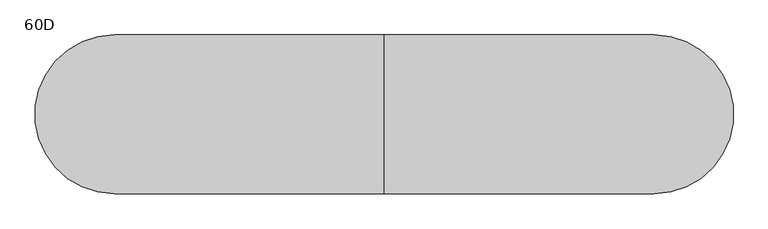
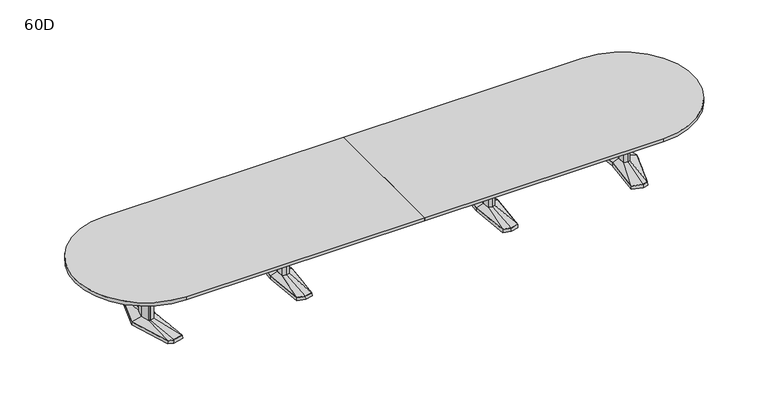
"""IFC4 building model written with IfcOpenShell, lengths in millimetres: furniture geometry, Coalesse_AM_Table_Conference_ETable2_Racetrack_22ft_AluminiumBase : 60D."""

from ifc_helpers import new_model, si_unit, point, frame, frame_2d, origin, place, context, project, spatial, polyline, circle_curve, trimmed, segment, composite_curve, outline, extrude, faceted_brep, source, transform, mapped, element, save
from ifc_brep_helpers import plane_surface, spline_surface, advanced_brep


def furniture_60d_ddcb2d8b(model_context):
    return source(origin(), model_context, "Body", "SolidModel", [
        faceted_brep([(1036.3666209, -433.8053819, 38.1), (1117.6, -455.556576, 38.1), (1198.8333791, -433.8053819, 38.1), (1236.6564774, 0.0, 38.1), (1198.8333791, 433.8053819, 38.1), (1117.6, 455.556576, 38.1), (1036.3666209, 433.8053819, 38.1), (998.5435226, 0.0, 38.1), (1034.8817205, -435.0512063, 3.175), (996.95, 0.0, 3.175), (1034.8817205, 435.0512063, 3.175), (1117.6, 457.2, 3.175), (1200.3182795, 435.0512063, 3.175), (1238.25, 0.0, 3.175), (1200.3182795, -435.0512063, 3.175), (1117.6, -457.2, 3.175), (1117.6, 429.2617927, 3.175), (1039.6323194, 408.3850278, 3.175), (1042.8980179, 382.9646737, 3.175), (1117.6, 402.9670094, 3.175), (1192.3019821, 382.9646737, 3.175), (1195.5676806, 408.3850278, 3.175), (1117.6, -429.2617927, 3.175), (1195.5676806, -408.3850278, 3.175), (1192.3019821, -382.9646737, 3.175), (1117.6, -402.9670094, 3.175), (1042.8980179, -382.9646737, 3.175), (1039.6323194, -408.3850278, 3.175), (1045.7425738, 114.6326257, 3.175), (1035.0573924, 0.0, 3.175), (1045.7425738, -114.6326257, 3.175), (1117.6, -133.8761372, 3.175), (1189.4574262, -114.6326257, 3.175), (1200.1426076, 0.0, 3.175), (1189.4574262, 114.6326257, 3.175), (1117.6, 133.8761372, 3.175), (1117.6, 429.2617927, 0.0), (1195.5676806, 408.3850278, 0.0), (1192.3019821, 382.9646737, 0.0), (1117.6, 402.9670094, 0.0), (1042.8980179, 382.9646737, 0.0), (1039.6323194, 408.3850278, 0.0), (1117.6, -429.2617927, 0.0), (1039.6323194, -408.3850278, 0.0), (1042.8980179, -382.9646737, 0.0), (1117.6, -402.9670094, 0.0), (1192.3019821, -382.9646737, 0.0), (1195.5676806, -408.3850278, 0.0), (1045.7425738, 114.6326257, 0.0), (1117.6, 133.8761372, 0.0), (1189.4574262, 114.6326257, 0.0), (1200.1426076, 0.0, 0.0), (1189.4574262, -114.6326257, 0.0), (1117.6, -133.8761372, 0.0), (1045.7425738, -114.6326257, 0.0), (1035.0573924, 0.0, 0.0)], [[[0, 1, 2, 3, 4, 5, 6, 7]], [[8, 9, 10, 11, 12, 13, 14, 15], [16, 17, 18, 19, 20, 21], [22, 23, 24, 25, 26, 27], [28, 29, 30, 31, 32, 33, 34, 35]], [[1, 0, 8, 15]], [[2, 1, 15, 14]], [[3, 2, 14, 13]], [[4, 3, 13, 12]], [[5, 4, 12, 11]], [[6, 5, 11, 10]], [[7, 6, 10, 9]], [[0, 7, 9, 8]], [[36, 37, 38, 39, 40, 41]], [[42, 43, 44, 45, 46, 47]], [[48, 49, 50, 51, 52, 53, 54, 55]], [[36, 41, 17, 16]], [[41, 40, 18, 17]], [[40, 39, 19, 18]], [[39, 38, 20, 19]], [[38, 37, 21, 20]], [[37, 36, 16, 21]], [[42, 47, 23, 22]], [[47, 46, 24, 23]], [[46, 45, 25, 24]], [[45, 44, 26, 25]], [[44, 43, 27, 26]], [[43, 42, 22, 27]], [[48, 55, 29, 28]], [[55, 54, 30, 29]], [[54, 53, 31, 30]], [[53, 52, 32, 31]], [[52, 51, 33, 32]], [[51, 50, 34, 33]], [[50, 49, 35, 34]], [[49, 48, 28, 35]]]),
        faceted_brep([(1081.2167166, 84.6900825, 698.5), (1073.3225513, 0.0, 698.5), (1081.2167166, -84.6900825, 698.5), (1117.6, -94.4335728, 698.5), (1153.9832834, -84.6900825, 698.5), (1161.8774487, 0.0, 698.5), (1153.9832834, 84.6900825, 698.5), (1117.6, 94.4335728, 698.5), (1081.2167166, 84.6900825, 63.5), (1117.6, 94.4335728, 63.5), (1153.9832834, 84.6900825, 63.5), (1161.8774487, 0.0, 63.5), (1153.9832834, -84.6900825, 63.5), (1117.6, -94.4335728, 63.5), (1081.2167166, -84.6900825, 63.5), (1073.3225513, 0.0, 63.5)], [[[0, 1, 2, 3, 4, 5, 6, 7]], [[8, 9, 10, 11, 12, 13, 14, 15]], [[1, 0, 8, 15]], [[2, 1, 15, 14]], [[3, 2, 14, 13]], [[4, 3, 13, 12]], [[5, 4, 12, 11]], [[6, 5, 11, 10]], [[7, 6, 10, 9]], [[0, 7, 9, 8]]]),
        advanced_brep(
        [(1081.2167166, 84.6900825, 63.5), (1073.3225513, 0.0, 63.5), (1081.2167166, -84.6900825, 63.5), (1117.6, -94.4335728, 63.5), (1153.9832834, -84.6900825, 63.5), (1161.8774487, 0.0, 63.5), (1153.9832834, 84.6900825, 63.5), (1117.6, 94.4335728, 63.5), (1036.3666209, 433.8053819, 38.1), (1117.6, 455.556576, 38.1), (1198.8333791, 433.8053819, 38.1), (1236.6564774, 0.0, 38.1), (1198.8333791, -433.8053819, 38.1), (1117.6, -455.556576, 38.1), (1036.3666209, -433.8053819, 38.1), (998.5435226, 0.0, 38.1)],
        [
            (0, 1),
            (1, 2),
            (2, 3),
            (3, 4),
            (4, 5),
            (5, 6),
            (6, 7),
            (7, 0),
            (8, 9),
            (9, 10),
            (10, 11),
            (11, 12),
            (12, 13),
            (13, 14),
            (14, 15),
            (15, 8),
            (15, 1),
            (0, 8),
            (14, 2),
            (13, 3),
            (12, 4),
            (11, 5),
            (10, 6),
            (9, 7),
        ],
        [
            plane_surface(frame((1117.6, 0.0, 63.5), z_axis=(0.0, 0.0, 1.0000000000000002), x_axis=(-0.9659615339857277, -0.25868574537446, 0.0))),
            plane_surface(frame((1117.6, 0.0, 38.1), z_axis=(0.0, 0.0, -1.0000000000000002), x_axis=(-0.9659615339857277, -0.25868574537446, 0.0))),
            spline_surface(1, 1, [[(1036.3666209, 433.8053819, 38.1), (1081.2167166, 84.6900825, 63.5)], [(998.5435226, 0.0, 38.1), (1073.3225513, 0.0, 63.5)]], [2, 2], [2, 2], [0.0, 1.0], [0.0, 1.0]),
            spline_surface(1, 1, [[(998.5435226, 0.0, 38.1), (1073.3225513, 0.0, 63.5)], [(1036.3666209, -433.8053819, 38.1), (1081.2167166, -84.6900825, 63.5)]], [2, 2], [2, 2], [0.0, 1.0], [0.0, 1.0]),
            spline_surface(1, 1, [[(1036.3666209, -433.8053819, 38.1), (1081.2167166, -84.6900825, 63.5)], [(1117.6, -455.556576, 38.1), (1117.6, -94.4335728, 63.5)]], [2, 2], [2, 2], [0.0, 1.0], [0.0, 1.0]),
            spline_surface(1, 1, [[(1117.6, -455.556576, 38.1), (1117.6, -94.4335728, 63.5)], [(1198.8333791, -433.8053819, 38.1), (1153.9832834, -84.6900825, 63.5)]], [2, 2], [2, 2], [0.0, 1.0], [0.0, 1.0]),
            spline_surface(1, 1, [[(1198.8333791, -433.8053819, 38.1), (1153.9832834, -84.6900825, 63.5)], [(1236.6564774, 0.0, 38.1), (1161.8774487, 0.0, 63.5)]], [2, 2], [2, 2], [0.0, 1.0], [0.0, 1.0]),
            spline_surface(1, 1, [[(1236.6564774, 0.0, 38.1), (1161.8774487, 0.0, 63.5)], [(1198.8333791, 433.8053819, 38.1), (1153.9832834, 84.6900825, 63.5)]], [2, 2], [2, 2], [0.0, 1.0], [0.0, 1.0]),
            spline_surface(1, 1, [[(1198.8333791, 433.8053819, 38.1), (1153.9832834, 84.6900825, 63.5)], [(1117.6, 455.556576, 38.1), (1117.6, 94.4335728, 63.5)]], [2, 2], [2, 2], [0.0, 1.0], [0.0, 1.0]),
            spline_surface(1, 1, [[(1117.6, 455.556576, 38.1), (1117.6, 94.4335728, 63.5)], [(1036.3666209, 433.8053819, 38.1), (1081.2167166, 84.6900825, 63.5)]], [2, 2], [2, 2], [0.0, 1.0], [0.0, 1.0]),
        ],
        [
            (0, [[1, 2, 3, 4, 5, 6, 7, 8]]),
            (1, [[9, 10, 11, 12, 13, 14, 15, 16]]),
            (2, [[-16, 17, -1, 18]]),
            (3, [[-15, 19, -2, -17]]),
            (4, [[-14, 20, -3, -19]]),
            (5, [[-13, 21, -4, -20]]),
            (6, [[-12, 22, -5, -21]]),
            (7, [[-11, 23, -6, -22]]),
            (8, [[-10, 24, -7, -23]]),
            (9, [[-9, -18, -8, -24]]),
        ],
    ),
        faceted_brep([(-1198.8333791, -433.8053819, 38.1), (-1117.6, -455.556576, 38.1), (-1036.3666209, -433.8053819, 38.1), (-998.5435226, 0.0, 38.1), (-1036.3666209, 433.8053819, 38.1), (-1117.6, 455.556576, 38.1), (-1198.8333791, 433.8053819, 38.1), (-1236.6564774, 0.0, 38.1), (-1200.3182795, -435.0512063, 3.175), (-1238.25, 0.0, 3.175), (-1200.3182795, 435.0512063, 3.175), (-1117.6, 457.2, 3.175), (-1034.8817205, 435.0512063, 3.175), (-996.95, 0.0, 3.175), (-1034.8817205, -435.0512063, 3.175), (-1117.6, -457.2, 3.175), (-1117.6, 429.2617927, 3.175), (-1195.5676806, 408.3850278, 3.175), (-1192.3019821, 382.9646737, 3.175), (-1117.6, 402.9670094, 3.175), (-1042.8980179, 382.9646737, 3.175), (-1039.6323194, 408.3850278, 3.175), (-1117.6, -429.2617927, 3.175), (-1039.6323194, -408.3850278, 3.175), (-1042.8980179, -382.9646737, 3.175), (-1117.6, -402.9670094, 3.175), (-1192.3019821, -382.9646737, 3.175), (-1195.5676806, -408.3850278, 3.175), (-1189.4574262, 114.6326257, 3.175), (-1200.1426076, 0.0, 3.175), (-1189.4574262, -114.6326257, 3.175), (-1117.6, -133.8761372, 3.175), (-1045.7425738, -114.6326257, 3.175), (-1035.0573924, 0.0, 3.175), (-1045.7425738, 114.6326257, 3.175), (-1117.6, 133.8761372, 3.175), (-1117.6, 429.2617927, 0.0), (-1039.6323194, 408.3850278, 0.0), (-1042.8980179, 382.9646737, 0.0), (-1117.6, 402.9670094, 0.0), (-1192.3019821, 382.9646737, 0.0), (-1195.5676806, 408.3850278, 0.0), (-1117.6, -429.2617927, 0.0), (-1195.5676806, -408.3850278, 0.0), (-1192.3019821, -382.9646737, 0.0), (-1117.6, -402.9670094, 0.0), (-1042.8980179, -382.9646737, 0.0), (-1039.6323194, -408.3850278, 0.0), (-1189.4574262, 114.6326257, 0.0), (-1117.6, 133.8761372, 0.0), (-1045.7425738, 114.6326257, 0.0), (-1035.0573924, 0.0, 0.0), (-1045.7425738, -114.6326257, 0.0), (-1117.6, -133.8761372, 0.0), (-1189.4574262, -114.6326257, 0.0), (-1200.1426076, 0.0, 0.0)], [[[0, 1, 2, 3, 4, 5, 6, 7]], [[8, 9, 10, 11, 12, 13, 14, 15], [16, 17, 18, 19, 20, 21], [22, 23, 24, 25, 26, 27], [28, 29, 30, 31, 32, 33, 34, 35]], [[1, 0, 8, 15]], [[2, 1, 15, 14]], [[3, 2, 14, 13]], [[4, 3, 13, 12]], [[5, 4, 12, 11]], [[6, 5, 11, 10]], [[7, 6, 10, 9]], [[0, 7, 9, 8]], [[36, 37, 38, 39, 40, 41]], [[42, 43, 44, 45, 46, 47]], [[48, 49, 50, 51, 52, 53, 54, 55]], [[36, 41, 17, 16]], [[41, 40, 18, 17]], [[40, 39, 19, 18]], [[39, 38, 20, 19]], [[38, 37, 21, 20]], [[37, 36, 16, 21]], [[42, 47, 23, 22]], [[47, 46, 24, 23]], [[46, 45, 25, 24]], [[45, 44, 26, 25]], [[44, 43, 27, 26]], [[43, 42, 22, 27]], [[48, 55, 29, 28]], [[55, 54, 30, 29]], [[54, 53, 31, 30]], [[53, 52, 32, 31]], [[52, 51, 33, 32]], [[51, 50, 34, 33]], [[50, 49, 35, 34]], [[49, 48, 28, 35]]]),
        faceted_brep([(-1153.9832834, 84.6900825, 698.5), (-1161.8774487, 0.0, 698.5), (-1153.9832834, -84.6900825, 698.5), (-1117.6, -94.4335728, 698.5), (-1081.2167166, -84.6900825, 698.5), (-1073.3225513, 0.0, 698.5), (-1081.2167166, 84.6900825, 698.5), (-1117.6, 94.4335728, 698.5), (-1153.9832834, 84.6900825, 63.5), (-1117.6, 94.4335728, 63.5), (-1081.2167166, 84.6900825, 63.5), (-1073.3225513, 0.0, 63.5), (-1081.2167166, -84.6900825, 63.5), (-1117.6, -94.4335728, 63.5), (-1153.9832834, -84.6900825, 63.5), (-1161.8774487, 0.0, 63.5)], [[[0, 1, 2, 3, 4, 5, 6, 7]], [[8, 9, 10, 11, 12, 13, 14, 15]], [[1, 0, 8, 15]], [[2, 1, 15, 14]], [[3, 2, 14, 13]], [[4, 3, 13, 12]], [[5, 4, 12, 11]], [[6, 5, 11, 10]], [[7, 6, 10, 9]], [[0, 7, 9, 8]]]),
        advanced_brep(
        [(-1153.9832834, 84.6900825, 63.5), (-1161.8774487, 0.0, 63.5), (-1153.9832834, -84.6900825, 63.5), (-1117.6, -94.4335728, 63.5), (-1081.2167166, -84.6900825, 63.5), (-1073.3225513, 0.0, 63.5), (-1081.2167166, 84.6900825, 63.5), (-1117.6, 94.4335728, 63.5), (-1198.8333791, 433.8053819, 38.1), (-1117.6, 455.556576, 38.1), (-1036.3666209, 433.8053819, 38.1), (-998.5435226, 0.0, 38.1), (-1036.3666209, -433.8053819, 38.1), (-1117.6, -455.556576, 38.1), (-1198.8333791, -433.8053819, 38.1), (-1236.6564774, 0.0, 38.1)],
        [
            (0, 1),
            (1, 2),
            (2, 3),
            (3, 4),
            (4, 5),
            (5, 6),
            (6, 7),
            (7, 0),
            (8, 9),
            (9, 10),
            (10, 11),
            (11, 12),
            (12, 13),
            (13, 14),
            (14, 15),
            (15, 8),
            (15, 1),
            (0, 8),
            (14, 2),
            (13, 3),
            (12, 4),
            (11, 5),
            (10, 6),
            (9, 7),
        ],
        [
            plane_surface(frame((-1117.6, 0.0, 63.5), z_axis=(0.0, 0.0, 1.0000000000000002), x_axis=(-0.9659615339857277, -0.25868574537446, 0.0))),
            plane_surface(frame((-1117.6, 0.0, 38.1), z_axis=(0.0, 0.0, -1.0000000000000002), x_axis=(-0.9659615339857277, -0.25868574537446, 0.0))),
            spline_surface(1, 1, [[(-1198.8333791, 433.8053819, 38.1), (-1153.9832834, 84.6900825, 63.5)], [(-1236.6564774, 0.0, 38.1), (-1161.8774487, 0.0, 63.5)]], [2, 2], [2, 2], [0.0, 1.0], [0.0, 1.0]),
            spline_surface(1, 1, [[(-1236.6564774, 0.0, 38.1), (-1161.8774487, 0.0, 63.5)], [(-1198.8333791, -433.8053819, 38.1), (-1153.9832834, -84.6900825, 63.5)]], [2, 2], [2, 2], [0.0, 1.0], [0.0, 1.0]),
            spline_surface(1, 1, [[(-1198.8333791, -433.8053819, 38.1), (-1153.9832834, -84.6900825, 63.5)], [(-1117.6, -455.556576, 38.1), (-1117.6, -94.4335728, 63.5)]], [2, 2], [2, 2], [0.0, 1.0], [0.0, 1.0]),
            spline_surface(1, 1, [[(-1117.6, -455.556576, 38.1), (-1117.6, -94.4335728, 63.5)], [(-1036.3666209, -433.8053819, 38.1), (-1081.2167166, -84.6900825, 63.5)]], [2, 2], [2, 2], [0.0, 1.0], [0.0, 1.0]),
            spline_surface(1, 1, [[(-1036.3666209, -433.8053819, 38.1), (-1081.2167166, -84.6900825, 63.5)], [(-998.5435226, 0.0, 38.1), (-1073.3225513, 0.0, 63.5)]], [2, 2], [2, 2], [0.0, 1.0], [0.0, 1.0]),
            spline_surface(1, 1, [[(-998.5435226, 0.0, 38.1), (-1073.3225513, 0.0, 63.5)], [(-1036.3666209, 433.8053819, 38.1), (-1081.2167166, 84.6900825, 63.5)]], [2, 2], [2, 2], [0.0, 1.0], [0.0, 1.0]),
            spline_surface(1, 1, [[(-1036.3666209, 433.8053819, 38.1), (-1081.2167166, 84.6900825, 63.5)], [(-1117.6, 455.556576, 38.1), (-1117.6, 94.4335728, 63.5)]], [2, 2], [2, 2], [0.0, 1.0], [0.0, 1.0]),
            spline_surface(1, 1, [[(-1117.6, 455.556576, 38.1), (-1117.6, 94.4335728, 63.5)], [(-1198.8333791, 433.8053819, 38.1), (-1153.9832834, 84.6900825, 63.5)]], [2, 2], [2, 2], [0.0, 1.0], [0.0, 1.0]),
        ],
        [
            (0, [[1, 2, 3, 4, 5, 6, 7, 8]]),
            (1, [[9, 10, 11, 12, 13, 14, 15, 16]]),
            (2, [[-16, 17, -1, 18]]),
            (3, [[-15, 19, -2, -17]]),
            (4, [[-14, 20, -3, -19]]),
            (5, [[-13, 21, -4, -20]]),
            (6, [[-12, 22, -5, -21]]),
            (7, [[-11, 23, -6, -22]]),
            (8, [[-10, 24, -7, -23]]),
            (9, [[-9, -18, -8, -24]]),
        ],
    ),
        faceted_brep([(2548.0994335, 455.5848221, 38.1), (2438.5218777, 426.2263816, 38.1), (2479.6851217, 0.0, 38.1), (2438.5218777, -426.2263816, 38.1), (2548.0994335, -455.5848221, 38.1), (2604.2257896, -440.5478297, 38.1), (2741.5371769, 0.0, 38.1), (2604.2257896, 440.5478297, 38.1), (2548.0994254, 457.2283104, 3.175), (2605.4811972, 441.8549756, 3.175), (2743.2, 0.0, 3.175), (2605.4811972, -441.8549756, 3.175), (2548.0994254, -457.2283104, 3.175), (2436.8125, -427.4118891, 3.175), (2478.0902356, 0.0, 3.175), (2436.8125, 427.4118891, 3.175), (2551.688865, 428.3273875, 3.175), (2446.6405728, 402.1057253, 3.175), (2454.759268, 377.985069, 3.175), (2555.2782966, 401.0699529, 3.175), (2605.8379225, 387.524361, 3.175), (2605.0318561, 414.0360954, 3.175), (2551.688865, -428.3273875, 3.175), (2605.0318561, -414.0360954, 3.175), (2605.8379225, -387.524361, 3.175), (2555.2782966, -401.0699529, 3.175), (2454.759268, -377.985069, 3.175), (2446.6405728, -402.1057253, 3.175), (2678.2841121, 0.0, 3.175), (2646.0147111, 120.4193755, 3.175), (2597.3674722, 133.471665, 3.175), (2517.4868026, 119.4176561, 3.175), (2506.3555966, 0.0, 3.175), (2517.4868026, -119.4176561, 3.175), (2597.3674722, -133.471665, 3.175), (2646.0147111, -120.4193755, 3.175), (2551.688865, 428.3273875, 0.0), (2605.0318561, 414.0360954, 0.0), (2605.8379225, 387.524361, 0.0), (2555.2782966, 401.0699529, 0.0), (2454.759268, 377.985069, 0.0), (2446.6405728, 402.1057253, 0.0), (2551.688865, -428.3273875, 0.0), (2446.6405728, -402.1057253, 0.0), (2454.759268, -377.985069, 0.0), (2555.2782966, -401.0699529, 0.0), (2605.8379225, -387.524361, 0.0), (2605.0318561, -414.0360954, 0.0), (2678.2841121, 0.0, 0.0), (2646.0147111, -120.4193755, 0.0), (2597.3674722, -133.471665, 0.0), (2517.4868026, -119.4176561, 0.0), (2506.3555966, 0.0, 0.0), (2517.4868026, 119.4176561, 0.0), (2597.3674722, 133.471665, 0.0), (2646.0147111, 120.4193755, 0.0)], [[[0, 1, 2, 3, 4, 5, 6, 7]], [[8, 9, 10, 11, 12, 13, 14, 15], [16, 17, 18, 19, 20, 21], [22, 23, 24, 25, 26, 27], [28, 29, 30, 31, 32, 33, 34, 35]], [[7, 9, 8, 0]], [[6, 10, 9, 7]], [[5, 11, 10, 6]], [[4, 12, 11, 5]], [[3, 13, 12, 4]], [[2, 14, 13, 3]], [[1, 15, 14, 2]], [[0, 8, 15, 1]], [[36, 37, 38, 39, 40, 41]], [[42, 43, 44, 45, 46, 47]], [[48, 49, 50, 51, 52, 53, 54, 55]], [[36, 16, 21, 37]], [[37, 21, 20, 38]], [[38, 20, 19, 39]], [[39, 19, 18, 40]], [[40, 18, 17, 41]], [[41, 17, 16, 36]], [[42, 22, 27, 43]], [[43, 27, 26, 44]], [[44, 26, 25, 45]], [[45, 25, 24, 46]], [[46, 24, 23, 47]], [[47, 23, 22, 42]], [[48, 28, 35, 49]], [[49, 35, 34, 50]], [[50, 34, 33, 51]], [[51, 33, 32, 52]], [[52, 32, 31, 53]], [[53, 31, 30, 54]], [[54, 30, 29, 55]], [[55, 29, 28, 48]]]),
        faceted_brep([(2638.8398336, 0.0, 698.5), (2614.9046046, 89.3188359, 698.5), (2598.0512484, 93.8406728, 698.5), (2595.6514011, 94.4845635, 698.5), (2552.723896, 86.9320037, 698.5), (2544.6207556, 0.0, 698.5), (2552.723896, -86.9320037, 698.5), (2595.6514011, -94.4845635, 698.5), (2598.0512484, -93.8406728, 698.5), (2614.9046046, -89.3188359, 698.5), (2638.8398336, 0.0, 63.5), (2614.9046046, -89.3188359, 63.5), (2598.0512484, -93.8406728, 63.5), (2595.6514011, -94.4845635, 63.5), (2552.723896, -86.9320037, 63.5), (2544.6207556, 0.0, 63.5), (2552.723896, 86.9320037, 63.5), (2595.6514011, 94.4845635, 63.5), (2598.0512484, 93.8406728, 63.5), (2614.9046046, 89.3188359, 63.5)], [[[0, 1, 2, 3, 4, 5, 6, 7, 8, 9]], [[10, 11, 12, 13, 14, 15, 16, 17, 18, 19]], [[9, 11, 10, 0]], [[8, 12, 11, 9]], [[7, 13, 12, 8]], [[6, 14, 13, 7]], [[5, 15, 14, 6]], [[4, 16, 15, 5]], [[3, 17, 16, 4]], [[2, 18, 17, 3]], [[1, 19, 18, 2]], [[0, 10, 19, 1]]]),
        advanced_brep(
        [(2595.6514011, 94.4845635, 63.5), (2552.723896, 86.9320037, 63.5), (2544.6207556, 0.0, 63.5), (2552.723896, -86.9320037, 63.5), (2595.6514011, -94.4845635, 63.5), (2614.9046046, -89.3188359, 63.5), (2638.8398336, 0.0, 63.5), (2614.9046046, 89.3188359, 63.5), (2548.0994335, 455.5848221, 38.1), (2604.2257896, 440.5478297, 38.1), (2741.5371769, 0.0, 38.1), (2604.2257896, -440.5478297, 38.1), (2548.0994335, -455.5848221, 38.1), (2438.5218777, -426.2263816, 38.1), (2479.6851217, 0.0, 38.1), (2438.5218777, 426.2263816, 38.1)],
        [
            (0, 1),
            (1, 2),
            (2, 3),
            (3, 4),
            (4, 5),
            (5, 6),
            (6, 7),
            (7, 0),
            (8, 9),
            (9, 10),
            (10, 11),
            (11, 12),
            (12, 13),
            (13, 14),
            (14, 15),
            (15, 8),
            (8, 0),
            (7, 9),
            (6, 10),
            (5, 11),
            (4, 12),
            (3, 13),
            (2, 14),
            (1, 15),
        ],
        [
            plane_surface(frame((2588.7525491, 0.0, 63.5), z_axis=(0.0, 0.0, 1.0), x_axis=(-0.25884244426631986, -0.9659195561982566, 0.0))),
            plane_surface(frame((2550.3645625, 0.0, 38.1), z_axis=(0.0, 0.0, -1.0), x_axis=(-0.25884244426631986, -0.9659195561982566, 0.0))),
            spline_surface(1, 1, [[(2548.0994335, 455.5848221, 38.1), (2604.2257896, 440.5478297, 38.1)], [(2595.6514011, 94.4845635, 63.5), (2614.9046046, 89.3188359, 63.5)]], [2, 2], [2, 2], [0.0, 1.0], [0.0, 1.0]),
            spline_surface(1, 1, [[(2604.2257896, 440.5478297, 38.1), (2741.5371769, 0.0, 38.1)], [(2614.9046046, 89.3188359, 63.5), (2638.8398336, 0.0, 63.5)]], [2, 2], [2, 2], [0.0, 1.0], [0.0, 1.0]),
            spline_surface(1, 1, [[(2741.5371769, 0.0, 38.1), (2604.2257896, -440.5478297, 38.1)], [(2638.8398336, 0.0, 63.5), (2614.9046046, -89.3188359, 63.5)]], [2, 2], [2, 2], [0.0, 1.0], [0.0, 1.0]),
            spline_surface(1, 1, [[(2604.2257896, -440.5478297, 38.1), (2548.0994335, -455.5848221, 38.1)], [(2614.9046046, -89.3188359, 63.5), (2595.6514011, -94.4845635, 63.5)]], [2, 2], [2, 2], [0.0, 1.0], [0.0, 1.0]),
            spline_surface(1, 1, [[(2548.0994335, -455.5848221, 38.1), (2438.5218777, -426.2263816, 38.1)], [(2595.6514011, -94.4845635, 63.5), (2552.723896, -86.9320037, 63.5)]], [2, 2], [2, 2], [0.0, 1.0], [0.0, 1.0]),
            spline_surface(1, 1, [[(2438.5218777, -426.2263816, 38.1), (2479.6851217, 0.0, 38.1)], [(2552.723896, -86.9320037, 63.5), (2544.6207556, 0.0, 63.5)]], [2, 2], [2, 2], [0.0, 1.0], [0.0, 1.0]),
            spline_surface(1, 1, [[(2479.6851217, 0.0, 38.1), (2438.5218777, 426.2263816, 38.1)], [(2544.6207556, 0.0, 63.5), (2552.723896, 86.9320037, 63.5)]], [2, 2], [2, 2], [0.0, 1.0], [0.0, 1.0]),
            spline_surface(1, 1, [[(2438.5218777, 426.2263816, 38.1), (2548.0994335, 455.5848221, 38.1)], [(2552.723896, 86.9320037, 63.5), (2595.6514011, 94.4845635, 63.5)]], [2, 2], [2, 2], [0.0, 1.0], [0.0, 1.0]),
        ],
        [
            (0, [[1, 2, 3, 4, 5, 6, 7, 8]]),
            (1, [[9, 10, 11, 12, 13, 14, 15, 16]]),
            (2, [[17, -8, 18, -9]]),
            (3, [[-18, -7, 19, -10]]),
            (4, [[-19, -6, 20, -11]]),
            (5, [[-20, -5, 21, -12]]),
            (6, [[-21, -4, 22, -13]]),
            (7, [[-22, -3, 23, -14]]),
            (8, [[-23, -2, 24, -15]]),
            (9, [[-24, -1, -17, -16]]),
        ],
    ),
        faceted_brep([(-2548.0994335, 455.5848221, 38.1), (-2604.2257896, 440.5478297, 38.1), (-2741.5371769, 0.0, 38.1), (-2604.2257896, -440.5478297, 38.1), (-2548.0994335, -455.5848221, 38.1), (-2438.5218777, -426.2263816, 38.1), (-2479.6851217, 0.0, 38.1), (-2438.5218777, 426.2263816, 38.1), (-2548.0994254, 457.2283104, 3.175), (-2436.8125, 427.4118891, 3.175), (-2478.0902356, 0.0, 3.175), (-2436.8125, -427.4118891, 3.175), (-2548.0994254, -457.2283104, 3.175), (-2605.4811972, -441.8549756, 3.175), (-2743.2, 0.0, 3.175), (-2605.4811972, 441.8549756, 3.175), (-2551.688865, 428.3273875, 3.175), (-2605.0318561, 414.0360954, 3.175), (-2605.8379225, 387.524361, 3.175), (-2555.2782966, 401.0699529, 3.175), (-2454.759268, 377.985069, 3.175), (-2446.6405728, 402.1057253, 3.175), (-2551.688865, -428.3273875, 3.175), (-2446.6405728, -402.1057253, 3.175), (-2454.759268, -377.985069, 3.175), (-2555.2782966, -401.0699529, 3.175), (-2605.8379225, -387.524361, 3.175), (-2605.0318561, -414.0360954, 3.175), (-2678.2841121, 0.0, 3.175), (-2646.0147111, -120.4193755, 3.175), (-2597.3674722, -133.471665, 3.175), (-2517.4868026, -119.4176561, 3.175), (-2506.3555966, 0.0, 3.175), (-2517.4868026, 119.4176561, 3.175), (-2597.3674722, 133.471665, 3.175), (-2646.0147111, 120.4193755, 3.175), (-2551.688865, 428.3273875, 0.0), (-2446.6405728, 402.1057253, 0.0), (-2454.759268, 377.985069, 0.0), (-2555.2782966, 401.0699529, 0.0), (-2605.8379225, 387.524361, 0.0), (-2605.0318561, 414.0360954, 0.0), (-2551.688865, -428.3273875, 0.0), (-2605.0318561, -414.0360954, 0.0), (-2605.8379225, -387.524361, 0.0), (-2555.2782966, -401.0699529, 0.0), (-2454.759268, -377.985069, 0.0), (-2446.6405728, -402.1057253, 0.0), (-2678.2841121, 0.0, 0.0), (-2646.0147111, 120.4193755, 0.0), (-2597.3674722, 133.471665, 0.0), (-2517.4868026, 119.4176561, 0.0), (-2506.3555966, 0.0, 0.0), (-2517.4868026, -119.4176561, 0.0), (-2597.3674722, -133.471665, 0.0), (-2646.0147111, -120.4193755, 0.0)], [[[0, 1, 2, 3, 4, 5, 6, 7]], [[8, 9, 10, 11, 12, 13, 14, 15], [16, 17, 18, 19, 20, 21], [22, 23, 24, 25, 26, 27], [28, 29, 30, 31, 32, 33, 34, 35]], [[1, 0, 8, 15]], [[2, 1, 15, 14]], [[3, 2, 14, 13]], [[4, 3, 13, 12]], [[5, 4, 12, 11]], [[6, 5, 11, 10]], [[7, 6, 10, 9]], [[0, 7, 9, 8]], [[36, 37, 38, 39, 40, 41]], [[42, 43, 44, 45, 46, 47]], [[48, 49, 50, 51, 52, 53, 54, 55]], [[36, 41, 17, 16]], [[41, 40, 18, 17]], [[40, 39, 19, 18]], [[39, 38, 20, 19]], [[38, 37, 21, 20]], [[37, 36, 16, 21]], [[42, 47, 23, 22]], [[47, 46, 24, 23]], [[46, 45, 25, 24]], [[45, 44, 26, 25]], [[44, 43, 27, 26]], [[43, 42, 22, 27]], [[48, 55, 29, 28]], [[55, 54, 30, 29]], [[54, 53, 31, 30]], [[53, 52, 32, 31]], [[52, 51, 33, 32]], [[51, 50, 34, 33]], [[50, 49, 35, 34]], [[49, 48, 28, 35]]]),
        faceted_brep([(-2638.8398336, 0.0, 698.5), (-2614.9046046, -89.3188359, 698.5), (-2598.0512484, -93.8406728, 698.5), (-2595.6514011, -94.4845635, 698.5), (-2552.723896, -86.9320037, 698.5), (-2544.6207556, 0.0, 698.5), (-2552.723896, 86.9320037, 698.5), (-2595.6514011, 94.4845635, 698.5), (-2598.0512484, 93.8406728, 698.5), (-2614.9046046, 89.3188359, 698.5), (-2638.8398336, 0.0, 63.5), (-2614.9046046, 89.3188359, 63.5), (-2598.0512484, 93.8406728, 63.5), (-2595.6514011, 94.4845635, 63.5), (-2552.723896, 86.9320037, 63.5), (-2544.6207556, 0.0, 63.5), (-2552.723896, -86.9320037, 63.5), (-2595.6514011, -94.4845635, 63.5), (-2598.0512484, -93.8406728, 63.5), (-2614.9046046, -89.3188359, 63.5)], [[[0, 1, 2, 3, 4, 5, 6, 7, 8, 9]], [[10, 11, 12, 13, 14, 15, 16, 17, 18, 19]], [[1, 0, 10, 19]], [[2, 1, 19, 18]], [[3, 2, 18, 17]], [[4, 3, 17, 16]], [[5, 4, 16, 15]], [[6, 5, 15, 14]], [[7, 6, 14, 13]], [[8, 7, 13, 12]], [[9, 8, 12, 11]], [[0, 9, 11, 10]]]),
        advanced_brep(
        [(-2595.6514011, 94.4845635, 63.5), (-2614.9046046, 89.3188359, 63.5), (-2638.8398336, 0.0, 63.5), (-2614.9046046, -89.3188359, 63.5), (-2595.6514011, -94.4845635, 63.5), (-2552.723896, -86.9320037, 63.5), (-2544.6207556, 0.0, 63.5), (-2552.723896, 86.9320037, 63.5), (-2548.0994335, 455.5848221, 38.1), (-2438.5218777, 426.2263816, 38.1), (-2479.6851217, 0.0, 38.1), (-2438.5218777, -426.2263816, 38.1), (-2548.0994335, -455.5848221, 38.1), (-2604.2257896, -440.5478297, 38.1), (-2741.5371769, 0.0, 38.1), (-2604.2257896, 440.5478297, 38.1)],
        [
            (0, 1),
            (1, 2),
            (2, 3),
            (3, 4),
            (4, 5),
            (5, 6),
            (6, 7),
            (7, 0),
            (8, 9),
            (9, 10),
            (10, 11),
            (11, 12),
            (12, 13),
            (13, 14),
            (14, 15),
            (15, 8),
            (15, 1),
            (0, 8),
            (14, 2),
            (13, 3),
            (12, 4),
            (11, 5),
            (10, 6),
            (9, 7),
        ],
        [
            plane_surface(frame((-2588.7525491, 0.0, 63.5), z_axis=(0.0, 0.0, 1.0), x_axis=(0.25884244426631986, -0.9659195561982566, 0.0))),
            plane_surface(frame((-2550.3645625, 0.0, 38.1), z_axis=(0.0, 0.0, -1.0), x_axis=(0.25884244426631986, -0.9659195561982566, 0.0))),
            spline_surface(1, 1, [[(-2548.0994335, 455.5848221, 38.1), (-2595.6514011, 94.4845635, 63.5)], [(-2604.2257896, 440.5478297, 38.1), (-2614.9046046, 89.3188359, 63.5)]], [2, 2], [2, 2], [0.0, 1.0], [0.0, 1.0]),
            spline_surface(1, 1, [[(-2604.2257896, 440.5478297, 38.1), (-2614.9046046, 89.3188359, 63.5)], [(-2741.5371769, 0.0, 38.1), (-2638.8398336, 0.0, 63.5)]], [2, 2], [2, 2], [0.0, 1.0], [0.0, 1.0]),
            spline_surface(1, 1, [[(-2741.5371769, 0.0, 38.1), (-2638.8398336, 0.0, 63.5)], [(-2604.2257896, -440.5478297, 38.1), (-2614.9046046, -89.3188359, 63.5)]], [2, 2], [2, 2], [0.0, 1.0], [0.0, 1.0]),
            spline_surface(1, 1, [[(-2604.2257896, -440.5478297, 38.1), (-2614.9046046, -89.3188359, 63.5)], [(-2548.0994335, -455.5848221, 38.1), (-2595.6514011, -94.4845635, 63.5)]], [2, 2], [2, 2], [0.0, 1.0], [0.0, 1.0]),
            spline_surface(1, 1, [[(-2548.0994335, -455.5848221, 38.1), (-2595.6514011, -94.4845635, 63.5)], [(-2438.5218777, -426.2263816, 38.1), (-2552.723896, -86.9320037, 63.5)]], [2, 2], [2, 2], [0.0, 1.0], [0.0, 1.0]),
            spline_surface(1, 1, [[(-2438.5218777, -426.2263816, 38.1), (-2552.723896, -86.9320037, 63.5)], [(-2479.6851217, 0.0, 38.1), (-2544.6207556, 0.0, 63.5)]], [2, 2], [2, 2], [0.0, 1.0], [0.0, 1.0]),
            spline_surface(1, 1, [[(-2479.6851217, 0.0, 38.1), (-2544.6207556, 0.0, 63.5)], [(-2438.5218777, 426.2263816, 38.1), (-2552.723896, 86.9320037, 63.5)]], [2, 2], [2, 2], [0.0, 1.0], [0.0, 1.0]),
            spline_surface(1, 1, [[(-2438.5218777, 426.2263816, 38.1), (-2552.723896, 86.9320037, 63.5)], [(-2548.0994335, 455.5848221, 38.1), (-2595.6514011, 94.4845635, 63.5)]], [2, 2], [2, 2], [0.0, 1.0], [0.0, 1.0]),
        ],
        [
            (0, [[1, 2, 3, 4, 5, 6, 7, 8]]),
            (1, [[9, 10, 11, 12, 13, 14, 15, 16]]),
            (2, [[-16, 17, -1, 18]]),
            (3, [[-15, 19, -2, -17]]),
            (4, [[-14, 20, -3, -19]]),
            (5, [[-13, 21, -4, -20]]),
            (6, [[-12, 22, -5, -21]]),
            (7, [[-11, 23, -6, -22]]),
            (8, [[-10, 24, -7, -23]]),
            (9, [[-9, -18, -8, -24]]),
        ],
    ),
        extrude(outline(polyline([(96.8375, 698.5), (103.1875, 698.5), (103.1875, 476.25), (-103.1875, 476.25), (-103.1875, 698.5), (-96.8375, 698.5), (-96.8375, 482.6), (96.8375, 482.6), (96.8375, 698.5)])), frame((-1073.3225513, 0.0, 0.0), z_axis=(1.0, 0.0, 0.0), x_axis=(0.0, 1.0, 0.0)), (0.0, 0.0, 1.0), 2146.6451026),
        extrude(outline(polyline([(96.8375, 698.5), (103.1875, 698.5), (103.1875, 476.25), (-103.1875, 476.25), (-103.1875, 698.5), (-96.8375, 698.5), (-96.8375, 482.6), (96.8375, 482.6), (96.8375, 698.5)])), frame((1161.8774487, 0.0, 0.0), z_axis=(1.0, 0.0, 0.0), x_axis=(0.0, 1.0, 0.0)), (0.0, 0.0, 1.0), 1382.8850513),
        extrude(outline(composite_curve([segment(trimmed(circle_curve(frame_2d((2590.8, 0.0)), 762.0), [point((2590.8, 762.0))], [point((2590.8, -762.0))], False, "CARTESIAN"), True, "CONTINUOUS"), segment(polyline([(2590.8, -762.0), (0.0, -762.0), (0.0, 762.0), (2590.8, 762.0)]), True, "CONTINUOUS")], self_intersect=False)), frame((0.0, 0.0, 698.5), z_axis=(0.0, 0.0, 1.0), x_axis=(1.0, 0.0, 0.0)), (0.0, 0.0, 1.0), 38.1),
        extrude(outline(composite_curve([segment(polyline([(0.0, 762.0), (0.0, -762.0), (-2590.8, -762.0)]), True, "CONTINUOUS"), segment(trimmed(circle_curve(frame_2d((-2590.8, 0.0)), 762.0), [point((-2590.8, -762.0))], [point((-2590.8, 762.0))], False, "CARTESIAN"), True, "CONTINUOUS"), segment(polyline([(-2590.8, 762.0), (0.0, 762.0)]), True, "CONTINUOUS")], self_intersect=False)), frame((0.0, 0.0, 698.5), z_axis=(0.0, 0.0, 1.0), x_axis=(1.0, 0.0, 0.0)), (0.0, 0.0, 1.0), 38.1),
        extrude(outline(polyline([(96.8375, 698.5), (103.1875, 698.5), (103.1875, 476.25), (-103.1875, 476.25), (-103.1875, 698.5), (-96.8375, 698.5), (-96.8375, 482.6), (96.8375, 482.6), (96.8375, 698.5)])), frame((-2544.7625, 0.0, 0.0), z_axis=(1.0, 0.0, 0.0), x_axis=(0.0, 1.0, 0.0)), (0.0, 0.0, 1.0), 1382.8850513),
    ])


if __name__ == "__main__":
    model = new_model("IFC4")
    model_context = context("Model", 3, world=origin())
    ifc_project = project(units=[si_unit("LENGTHUNIT", "METRE", prefix="MILLI")], contexts=[model_context])
    site = spatial("IfcSite", under=ifc_project)
    building = spatial("IfcBuilding", under=site)
    placement = place(None, origin())
    furniture_60d_shape = furniture_60d_ddcb2d8b(model_context)
    element("IfcFurniture", 1, ObjectType="Coalesse_AM_Table_Conference_ETable2_Racetrack_22ft_AluminiumBase : 60D", at=placement, inside=building, context=model_context, shape_type="MappedRepresentation", body=[
        mapped(furniture_60d_shape, transform((0.0, 0.0, 0.0), x_axis=(1.0, 0.0, 0.0), y_axis=(0.0, 1.0, 0.0), z_axis=(0.0, 0.0, 1.0))),
    ])
    save(model, "model.ifc")
